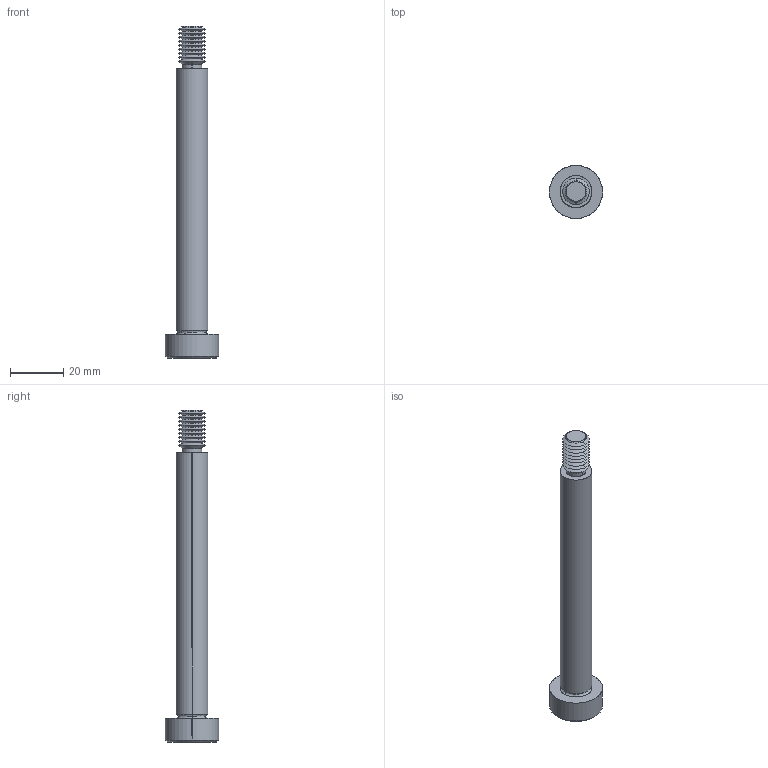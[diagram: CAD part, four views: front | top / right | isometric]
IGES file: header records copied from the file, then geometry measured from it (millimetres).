
Start section: SolidWorks IGES file using analytic representation for surfaces
Global section: file name: C:\Users\IanO\Documents\Temp Folder\GENERAL\SCREW REVISION\P0130_v2\P0130.T5_v2_20220106_IGES\P0130.120-100-T5.igs; native system: SolidWorks 2019; preprocessor: SolidWorks 2019; author: IanO; date: 220106.225230; units: millimetre
Bounding box: 20 x 20 x 125 mm (x, y, z)
Surface area: 5887.1 mm2 (no closed solid volume)
Topology: 0 solids, 0 shells, 76 faces, 564 edges, 562 vertices
Faces by surface type: revolution 56, bspline 20
